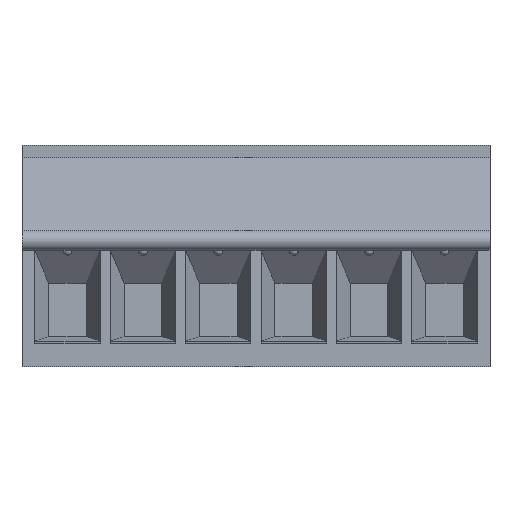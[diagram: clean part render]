
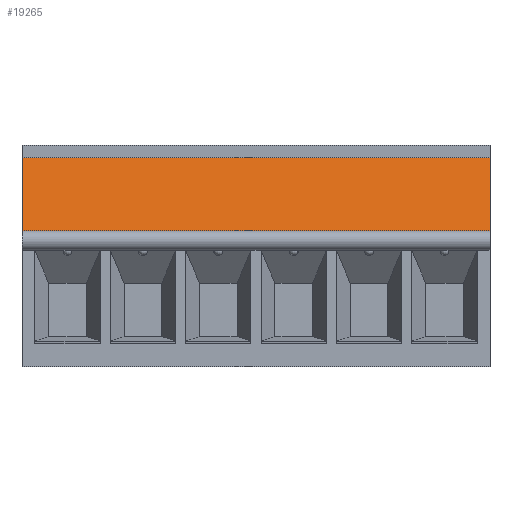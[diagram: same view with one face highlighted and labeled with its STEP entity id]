
A CAD part, top view. The second image highlights one B-rep face of the part: STEP entity #19265.
In plain terms, the highlighted planar face has unit normal (0, 0.249, 0.969).
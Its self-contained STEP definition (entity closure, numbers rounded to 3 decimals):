
#32 = PLANE('',#33);
#33 = AXIS2_PLACEMENT_3D('',#34,#35,#36);
#34 = CARTESIAN_POINT('',(0.,-29.45,2.413));
#35 = DIRECTION('',(1.,0.,0.));
#36 = DIRECTION('',(0.,0.,-1.));
#118 = VERTEX_POINT('',#119);
#119 = CARTESIAN_POINT('',(0.,0.5,-0.65));
#133 = PLANE('',#134);
#134 = AXIS2_PLACEMENT_3D('',#135,#136,#137);
#135 = CARTESIAN_POINT('',(0.,0.5,0.));
#136 = DIRECTION('',(0.,-1.,0.));
#137 = DIRECTION('',(0.,0.,-1.));
#145 = EDGE_CURVE('',#118,#146,#148,.T.);
#146 = VERTEX_POINT('',#147);
#147 = CARTESIAN_POINT('',(0.,4.2,-1.6));
#148 = SURFACE_CURVE('',#149,(#153,#160),.PCURVE_S1.);
#149 = LINE('',#150,#151);
#150 = CARTESIAN_POINT('',(0.,0.5,-0.65));
#151 = VECTOR('',#152,1.);
#152 = DIRECTION('',(0.,0.969,-0.249));
#153 = PCURVE('',#32,#154);
#154 = DEFINITIONAL_REPRESENTATION('',(#155),#159);
#155 = LINE('',#156,#157);
#156 = CARTESIAN_POINT('',(3.063,29.95));
#157 = VECTOR('',#158,1.);
#158 = DIRECTION('',(0.249,0.969));
#159 = ( GEOMETRIC_REPRESENTATION_CONTEXT(2) 
PARAMETRIC_REPRESENTATION_CONTEXT() REPRESENTATION_CONTEXT('2D SPACE',''
  ) );
#160 = PCURVE('',#161,#166);
#161 = PLANE('',#162);
#162 = AXIS2_PLACEMENT_3D('',#163,#164,#165);
#163 = CARTESIAN_POINT('',(0.,0.5,-0.65));
#164 = DIRECTION('',(0.,-0.249,-0.969));
#165 = DIRECTION('',(0.,0.969,-0.249));
#166 = DEFINITIONAL_REPRESENTATION('',(#167),#171);
#167 = LINE('',#168,#169);
#168 = CARTESIAN_POINT('',(0.,0.));
#169 = VECTOR('',#170,1.);
#170 = DIRECTION('',(1.,0.));
#171 = ( GEOMETRIC_REPRESENTATION_CONTEXT(2) 
PARAMETRIC_REPRESENTATION_CONTEXT() REPRESENTATION_CONTEXT('2D SPACE',''
  ) );
#189 = PLANE('',#190);
#190 = AXIS2_PLACEMENT_3D('',#191,#192,#193);
#191 = CARTESIAN_POINT('',(0.,4.2,-1.6));
#192 = DIRECTION('',(0.,1.,0.));
#193 = DIRECTION('',(0.,-0.,1.));
#437 = PLANE('',#438);
#438 = AXIS2_PLACEMENT_3D('',#439,#440,#441);
#439 = CARTESIAN_POINT('',(-23.65,-12.25,-10.621));
#440 = DIRECTION('',(-1.,0.,0.));
#441 = DIRECTION('',(0.,0.,1.));
#19220 = EDGE_CURVE('',#146,#19221,#19223,.T.);
#19221 = VERTEX_POINT('',#19222);
#19222 = CARTESIAN_POINT('',(-23.65,4.2,-1.6));
#19223 = SURFACE_CURVE('',#19224,(#19228,#19235),.PCURVE_S1.);
#19224 = LINE('',#19225,#19226);
#19225 = CARTESIAN_POINT('',(0.,4.2,-1.6));
#19226 = VECTOR('',#19227,1.);
#19227 = DIRECTION('',(-1.,0.,0.));
#19228 = PCURVE('',#189,#19229);
#19229 = DEFINITIONAL_REPRESENTATION('',(#19230),#19234);
#19230 = LINE('',#19231,#19232);
#19231 = CARTESIAN_POINT('',(0.,0.));
#19232 = VECTOR('',#19233,1.);
#19233 = DIRECTION('',(0.,-1.));
#19234 = ( GEOMETRIC_REPRESENTATION_CONTEXT(2) 
PARAMETRIC_REPRESENTATION_CONTEXT() REPRESENTATION_CONTEXT('2D SPACE',''
  ) );
#19235 = PCURVE('',#161,#19236);
#19236 = DEFINITIONAL_REPRESENTATION('',(#19237),#19241);
#19237 = LINE('',#19238,#19239);
#19238 = CARTESIAN_POINT('',(3.82,0.));
#19239 = VECTOR('',#19240,1.);
#19240 = DIRECTION('',(0.,-1.));
#19241 = ( GEOMETRIC_REPRESENTATION_CONTEXT(2) 
PARAMETRIC_REPRESENTATION_CONTEXT() REPRESENTATION_CONTEXT('2D SPACE',''
  ) );
#19265 = ADVANCED_FACE('',(#19266),#161,.F.);
#19266 = FACE_BOUND('',#19267,.F.);
#19267 = EDGE_LOOP('',(#19268,#19291,#19312,#19313));
#19268 = ORIENTED_EDGE('',*,*,#19269,.T.);
#19269 = EDGE_CURVE('',#118,#19270,#19272,.T.);
#19270 = VERTEX_POINT('',#19271);
#19271 = CARTESIAN_POINT('',(-23.65,0.5,-0.65));
#19272 = SURFACE_CURVE('',#19273,(#19277,#19284),.PCURVE_S1.);
#19273 = LINE('',#19274,#19275);
#19274 = CARTESIAN_POINT('',(0.,0.5,-0.65));
#19275 = VECTOR('',#19276,1.);
#19276 = DIRECTION('',(-1.,0.,0.));
#19277 = PCURVE('',#161,#19278);
#19278 = DEFINITIONAL_REPRESENTATION('',(#19279),#19283);
#19279 = LINE('',#19280,#19281);
#19280 = CARTESIAN_POINT('',(0.,0.));
#19281 = VECTOR('',#19282,1.);
#19282 = DIRECTION('',(0.,-1.));
#19283 = ( GEOMETRIC_REPRESENTATION_CONTEXT(2) 
PARAMETRIC_REPRESENTATION_CONTEXT() REPRESENTATION_CONTEXT('2D SPACE',''
  ) );
#19284 = PCURVE('',#133,#19285);
#19285 = DEFINITIONAL_REPRESENTATION('',(#19286),#19290);
#19286 = LINE('',#19287,#19288);
#19287 = CARTESIAN_POINT('',(0.65,0.));
#19288 = VECTOR('',#19289,1.);
#19289 = DIRECTION('',(0.,-1.));
#19290 = ( GEOMETRIC_REPRESENTATION_CONTEXT(2) 
PARAMETRIC_REPRESENTATION_CONTEXT() REPRESENTATION_CONTEXT('2D SPACE',''
  ) );
#19291 = ORIENTED_EDGE('',*,*,#19292,.T.);
#19292 = EDGE_CURVE('',#19270,#19221,#19293,.T.);
#19293 = SURFACE_CURVE('',#19294,(#19298,#19305),.PCURVE_S1.);
#19294 = LINE('',#19295,#19296);
#19295 = CARTESIAN_POINT('',(-23.65,0.5,-0.65));
#19296 = VECTOR('',#19297,1.);
#19297 = DIRECTION('',(0.,0.969,-0.249));
#19298 = PCURVE('',#161,#19299);
#19299 = DEFINITIONAL_REPRESENTATION('',(#19300),#19304);
#19300 = LINE('',#19301,#19302);
#19301 = CARTESIAN_POINT('',(0.,-23.65));
#19302 = VECTOR('',#19303,1.);
#19303 = DIRECTION('',(1.,0.));
#19304 = ( GEOMETRIC_REPRESENTATION_CONTEXT(2) 
PARAMETRIC_REPRESENTATION_CONTEXT() REPRESENTATION_CONTEXT('2D SPACE',''
  ) );
#19305 = PCURVE('',#437,#19306);
#19306 = DEFINITIONAL_REPRESENTATION('',(#19307),#19311);
#19307 = LINE('',#19308,#19309);
#19308 = CARTESIAN_POINT('',(9.971,12.75));
#19309 = VECTOR('',#19310,1.);
#19310 = DIRECTION('',(-0.249,0.969));
#19311 = ( GEOMETRIC_REPRESENTATION_CONTEXT(2) 
PARAMETRIC_REPRESENTATION_CONTEXT() REPRESENTATION_CONTEXT('2D SPACE',''
  ) );
#19312 = ORIENTED_EDGE('',*,*,#19220,.F.);
#19313 = ORIENTED_EDGE('',*,*,#145,.F.);
